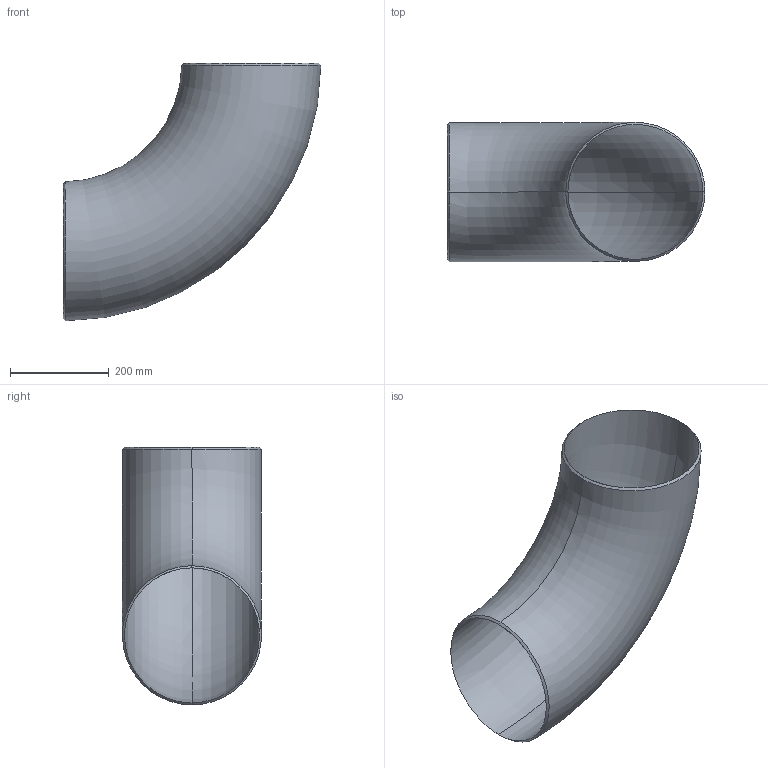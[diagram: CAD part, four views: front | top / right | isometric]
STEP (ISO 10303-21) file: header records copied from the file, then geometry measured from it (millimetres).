
FILE_DESCRIPTION (( 'STEP AP203' ), '1' );
FILE_NAME ('3D_R2651_10X10S_173425290.STEP', '2024-08-22T09:41:30', ( '' ), ( '' ), 'SwSTEP 2.0', 'SolidWorks 2024', '' );
FILE_SCHEMA (( 'CONFIG_CONTROL_DESIGN' ));
Length unit declared in the file: millimetre
Products named in the file (1): 3D_R2651_10X10S_173425290
Bounding box: 521.72 x 281.48 x 521.72 mm (x, y, z)
Volume: 2024615.8 mm3; surface area: 1044814.7 mm2
Topology: 1 solids, 1 shells, 10 faces, 26 edges, 16 vertices
Faces by surface type: bspline 4, torus 4, plane 2
Entity records: 4257 total; most frequent: CARTESIAN_POINT 3971, ORIENTED_EDGE 52, DIRECTION 30, EDGE_CURVE 26, B_SPLINE_CURVE_WITH_KNOTS 18, VERTEX_POINT 16, AXIS2_PLACEMENT_3D 15, FACE_OUTER_BOUND 10
